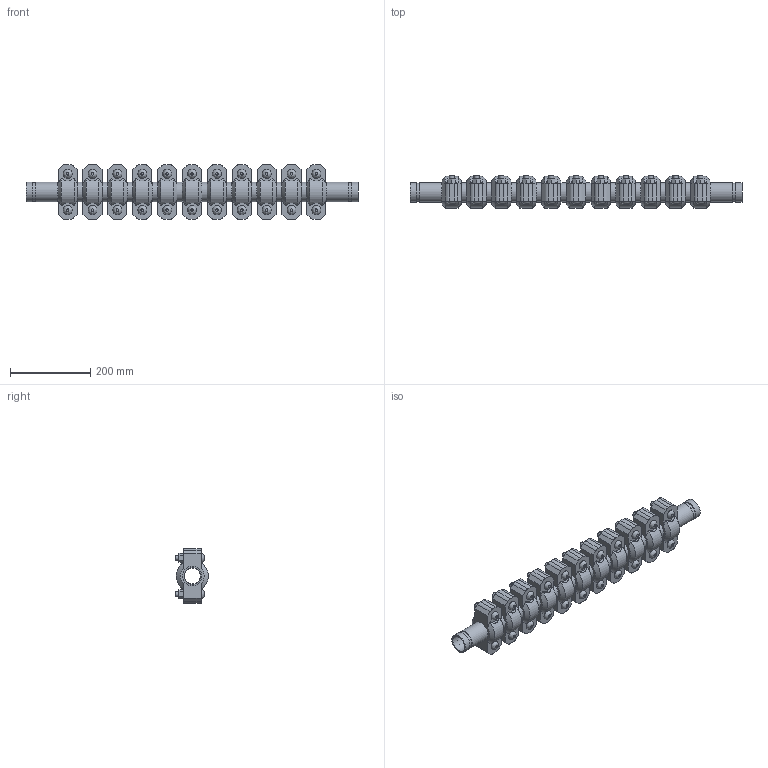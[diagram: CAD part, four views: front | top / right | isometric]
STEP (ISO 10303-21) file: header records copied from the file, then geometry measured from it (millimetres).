
FILE_DESCRIPTION(/* description */ ('VIC EXPANSION JOINT 11 COUPLINGS EXPANDED STYLE 155 (OGS)','CAx-IF Rec.Pracs.---Representation and Presentation of Product Manufacturing Information (PMI)---4.0---2014-10-13'),/* implementation_level */ '2;1');
FILE_NAME(/* name */ 'C:\Users\kkamble\AppData\Roaming\Autodesk\ApplicationPlugins\Victaulic.Temp\A474\Victaulic_IPS_Expansion Joint_Expanded_11 Couplings_Style 155 (OGS)_1.5 (40).stp',/* time_stamp */ '2021-06-26T23:51:40+02:00',/* author */ ('kkamble'),/* organization */ ('Victaulic'),/* preprocessor_version */ 'ST-DEVELOPER v17.2',/* originating_system */ 'Autodesk Inventor 2019',/* authorisation */ '');
FILE_SCHEMA (('AP242_MANAGED_MODEL_BASED_3D_ENGINEERING_MIM_LF { 1 0 10303 442 1 1 4 }'));
Length unit declared in the file: inch
Products named in the file (4): 155-01.5; Nipple-01.5; Nipple-01.5_1; 077-01.5
Assembly tree (23 placements, depth 2):
  155-01.5
    Nipple-01.5  x2
    Nipple-01.5_1  x10
    077-01.5  x11
Bounding box: 827.28 x 81.03 x 136.65 mm (x, y, z)
Volume: 3279156.1 mm3; surface area: 753421.2 mm2
Topology: 23 solids, 45 shells, 815 faces, 1955 edges, 1366 vertices
Faces by surface type: plane 468, cylinder 281, cone 44, bspline 22
Full cylindrical faces by diameter (mm): 12.7 x44, 14.605 x22, 39.37 x11, 40.894 x12, 45.085 x24, 48.26 x58
Entity records: 3113 total; most frequent: CARTESIAN_POINT 615, DIRECTION 509, ORIENTED_EDGE 410, AXIS2_PLACEMENT_3D 206, EDGE_CURVE 205, VERTEX_POINT 146, EDGE_LOOP 111, LINE 97
